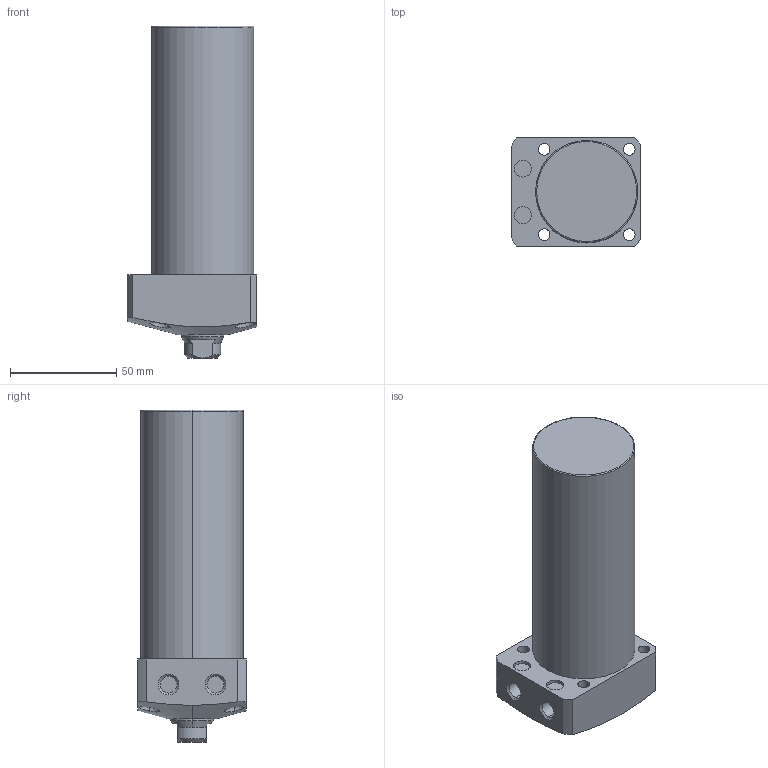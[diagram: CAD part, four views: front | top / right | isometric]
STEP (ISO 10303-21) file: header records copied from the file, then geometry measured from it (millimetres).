
FILE_DESCRIPTION (( 'STEP AP203' ), '1' );
FILE_NAME ('CLL048-CA-090.STEP', '2017-05-17T10:46:21', ( '' ), ( '' ), 'SwSTEP 2.0', 'SolidWorks 2015', '' );
FILE_SCHEMA (( 'CONFIG_CONTROL_DESIGN' ));
Length unit declared in the file: millimetre
Products named in the file (1): CLL048-CA-090
Bounding box: 61 x 51 x 156 mm (x, y, z)
Volume: 285918.6 mm3; surface area: 32419.6 mm2
Topology: 1 solids, 1 shells, 74 faces, 170 edges, 107 vertices
Faces by surface type: cylinder 35, plane 22, cone 15, torus 2
Entity records: 2535 total; most frequent: CARTESIAN_POINT 748, DIRECTION 374, ORIENTED_EDGE 336, EDGE_CURVE 168, AXIS2_PLACEMENT_3D 155, VERTEX_POINT 107, EDGE_LOOP 93, CIRCLE 80
